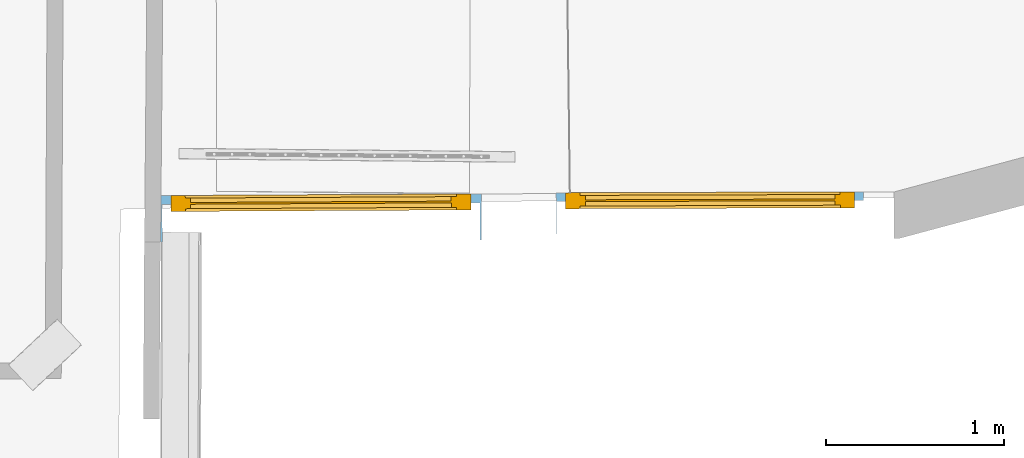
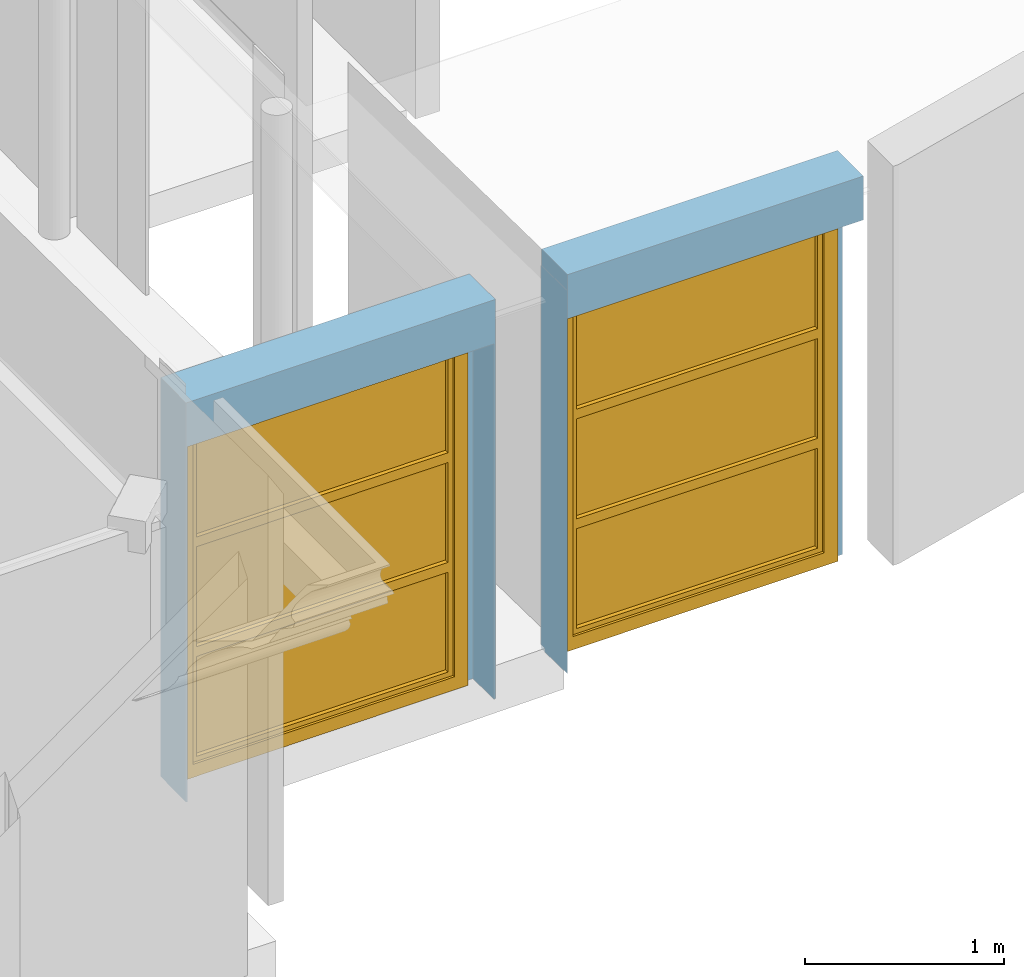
# One storey, part 53 of 72: 2 windows, 2 openings, plus 2 elements that do not belong to this part.
"""IFC2X3 building model written with IfcOpenShell, lengths in centimetres."""

from ifc_helpers import new_model, entity, si_unit, converted_unit, direction, frame, origin, origin_with_axes, place, context, subcontext, project, spatial, polyline, outline, extrude, clip, bounded_halfspace, faceted_brep, shape, source, transform, mapped, material, material_list, layer, layer_set, layer_usage, type_object, element, fill, save


model = new_model("IFC2X3")

# Units and contexts
model_context = context("Model", 3, precision=0.0001, world=origin(), true_north=direction((0.225632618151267, 0.974212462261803, 0.0)))
body_context = subcontext(model_context, "Body", "Model", "MODEL_VIEW")
footprint_context = subcontext(model_context, "FootPrint", "Model", "MODEL_VIEW")
profile_context = subcontext(model_context, "Profile", "Model", "MODEL_VIEW")
ifc_project = project(units=[si_unit("LENGTHUNIT", "METRE", prefix="CENTI"), si_unit("AREAUNIT", "SQUARE_METRE", prefix="CENTI"), si_unit("VOLUMEUNIT", "CUBIC_METRE", prefix="CENTI"), converted_unit("PLANEANGLEUNIT", "DEGREE", entity("IfcRatioMeasure", 0.0174532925), si_unit("PLANEANGLEUNIT", "RADIAN"), dimensions=[0, 0, 0, 0, 0, 0, 0])], contexts=[model_context])

# Site, building, storey
site_placement = place(None, origin_with_axes())
site = spatial("IfcSite", under=ifc_project, at=site_placement, Name="Default Site", CompositionType="ELEMENT")
building_placement = place(site_placement, origin_with_axes())
building = spatial("IfcBuilding", under=site, at=building_placement, Name="Default Building", CompositionType="ELEMENT")
storey_placement = place(building_placement, frame((0.0, 0.0, 853.910374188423), z_axis=(0.0, 0.0, 1.0), x_axis=(1.0, 0.0, 0.0)))
storey = spatial("IfcBuildingStorey", under=building, at=storey_placement, Name="Niveau 2", CompositionType="ELEMENT", Elevation=853.910374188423)

# Wall, opening, window
ifc_material_1 = material(Name="<aucun>")
ifc_layer = layer(ifc_material_1, 26.0)
ifc_layer_set = layer_set([ifc_layer], Name="default")
ifc_layer_usage_1 = layer_usage(ifc_layer_set, "AXIS2", "POSITIVE", -13.0)
wall_type = type_object("IfcWallType", Name="default 260", PredefinedType="NOTDEFINED", material=ifc_layer_set)
wall_1_placement = place(storey_placement, frame((894.35081845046, -887.212370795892, 7.46069872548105e-12), z_axis=(0.0, 0.0, 1.0), x_axis=(0.999986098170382, 0.00527289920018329, 0.0)))
wall_1 = element("IfcWallStandardCase", 1, at=wall_1_placement, inside=storey, type_object=wall_type, material=ifc_layer_usage_1, Name="Enveloppe 539435", context=body_context, shape_type="SweptSolid", body=[
    extrude(outline(polyline([(-0.000936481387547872, -13.0000000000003), (180.225040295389, -12.9999999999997), (180.225040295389, 13.0000000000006), (0.369743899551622, 13.0000000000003), (-0.000936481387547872, -13.0000000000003)])), frame((0.0, 0.0, -7.105427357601e-12), z_axis=(0.0, 0.0, 1.0), x_axis=(1.0, 0.0, 0.0)), (0.0, 0.0, 1.0), 244.999999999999),
])
opening_1_placement = place(wall_1_placement, frame((0.982365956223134, 0.0, 3.5349501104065e-13), z_axis=(0.0, 0.0, 1.0), x_axis=(-1.0, -2.10335221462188e-15, 0.0)))
cartesian_point_1 = entity("IfcCartesianPoint", [0.0, 0.0, 218.0])
cartesian_point_2 = entity("IfcCartesianPoint", [-178.282845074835, -13.0000000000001])
opening_1 = element("IfcOpeningElement", 2, at=opening_1_placement, cuts=wall_1, Name="4294966494_11", ObjectType="Opening", shapes=[
    shape(body_context, "Body", "Brep", [faceted_brep([(-4.99997728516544, -32.9999955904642, 218.000007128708), (-173.282822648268, -32.9999955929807, 218.000007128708), (-173.282822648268, -32.9999955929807, -2.33888702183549e-05), (-4.99997728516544, -32.9999955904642, -2.33888702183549e-05), (3.15236590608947e-05, 33.0000052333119, -2.33888702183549e-05), (-178.282800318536, 33.0000052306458, -2.33888702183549e-05), (-178.282800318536, 33.0000052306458, 218.000007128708), (3.15236590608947e-05, 33.0000052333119, 218.000007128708), (-4.99997728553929, -8.00002964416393, -2.33888702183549e-05), (-4.99997728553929, -8.00002964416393, 218.000007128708), (-4.99995277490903, -8.00002964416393, 218.000007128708), (-4.99995277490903, -8.00002964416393, -2.33888702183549e-05), (4.0716068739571e-05, -8.00002964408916, -2.33888702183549e-05), (4.0716068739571e-05, -8.00002964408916, 218.000007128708), (4.07160687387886e-05, -7.99997732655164, 218.000007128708), (4.07160687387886e-05, -7.99997732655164, -2.33888702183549e-05), (4.07154556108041e-05, 33.0000052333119, -2.33888702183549e-05), (4.07154556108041e-05, 33.0000052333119, 218.000007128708), (-173.282822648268, -32.9999556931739, -2.33888702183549e-05), (-173.282798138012, -7.99998974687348, -2.33888702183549e-05), (-178.282886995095, -8.00004156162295, -2.33888702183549e-05), (-178.282800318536, 33.0000358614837, -2.33888702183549e-05), (-173.282822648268, -32.9999556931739, 218.000007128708), (-173.282822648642, -7.99998974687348, 218.000007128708), (-173.282822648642, -7.99998974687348, -2.33888702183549e-05), (-173.282798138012, -7.99998974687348, 218.000007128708), (-178.282886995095, -7.99998974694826, 218.000007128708), (-178.282886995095, -7.99998974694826, -2.33888702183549e-05), (-178.282886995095, -8.00004156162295, 218.000007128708), (-178.282886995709, 33.0000358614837, 218.000007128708), (-178.282886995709, 33.0000358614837, -2.33888702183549e-05), (-178.282800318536, 33.0000358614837, 218.000007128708)], [[[0, 1, 2, 3]], [[4, 5, 6, 7]], [[0, 3, 8, 9]], [[10, 11, 12, 13]], [[14, 15, 16, 17]], [[3, 18, 19, 20, 21, 4, 15, 11]], [[18, 22, 23, 24]], [[19, 25, 26, 27]], [[20, 28, 29, 30]], [[10, 14, 7, 31, 28, 25, 22, 0]]])]),
    shape(profile_context, "Profile", "GeometricCurveSet", [entity("IfcGeometricCurveSet", [entity("IfcPolyline", [cartesian_point_1, entity("IfcCartesianPoint", [0.0, 0.0, 0.0]), entity("IfcCartesianPoint", [-178.282845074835, -1.77635683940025e-13, 0.0]), entity("IfcCartesianPoint", [-178.282845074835, -1.77635683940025e-13, 218.0]), cartesian_point_1])])]),
    shape(footprint_context, "FootPrint", "GeometricCurveSet", [entity("IfcGeometricCurveSet", [entity("IfcPolyline", [cartesian_point_2, entity("IfcCartesianPoint", [-1.77635683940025e-13, -13.0000000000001]), entity("IfcCartesianPoint", [0.0, 13.0000000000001]), entity("IfcCartesianPoint", [-178.282845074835, 12.9999999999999]), cartesian_point_2])])]),
])
ifc_material_2 = material(Name="Transparent")
ifc_material_3 = material(Name="Blanc trafic")
ifc_material_list = material_list([ifc_material_2, ifc_material_3])
window_style = type_object("IfcWindowStyle", Name="Fn 1 montant fixe 2 vitres ép 90", ConstructionType="NOTDEFINED", OperationType="TRIPLE_PANEL_HORIZONTAL", ParameterTakesPrecedence=True, Sizeable=False, material=ifc_material_list)
shared_shape_1 = source(origin_with_axes(), body_context, "Body", "Brep", [
    faceted_brep([(-76.1414229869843, 209.999990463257, -4.50000017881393), (-76.1414229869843, 209.999990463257, 4.50000017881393), (-76.1414229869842, 7.99999982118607, 4.50000017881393), (-76.1414229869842, 7.99999982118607, -4.50000017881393), (-84.1414213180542, 218.00000667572, 4.50000017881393), (-84.1414213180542, 0.0, 4.50000017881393), (-76.1414229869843, 7.99999982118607, 4.50000017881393), (-84.1414213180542, 218.00000667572, -4.50000017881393), (-84.1414213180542, 0.0, -4.50000017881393), (-76.1414229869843, 7.99999982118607, -4.50000017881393), (76.1414229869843, 7.99999982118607, 4.50000017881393), (76.1414229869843, 7.99999982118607, -4.50000017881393), (84.1414213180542, 0.0, 4.50000017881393), (84.1414213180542, 0.0, -4.50000017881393), (76.1414229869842, 209.999990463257, 4.50000017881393), (76.1414229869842, 209.999990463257, -4.50000017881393), (84.1414213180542, 218.00000667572, 4.50000017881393), (76.1414229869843, 209.999990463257, 4.50000017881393), (84.1414213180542, 218.00000667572, -4.50000017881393), (76.1414229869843, 209.999990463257, -4.50000017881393)], [[[0, 1, 2, 3]], [[1, 4, 5, 6]], [[4, 7, 8, 5]], [[7, 0, 9, 8]], [[9, 6, 10, 11]], [[6, 5, 12, 10]], [[5, 8, 13, 12]], [[8, 9, 11, 13]], [[11, 10, 14, 15]], [[10, 12, 16, 17]], [[12, 13, 18, 16]], [[13, 11, 19, 18]], [[19, 17, 1, 0]], [[17, 16, 4, 1]], [[16, 18, 7, 4]], [[18, 19, 0, 7]]]),
    faceted_brep([(-73.1414198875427, 206.99999332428, -2.99999993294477), (-73.1414198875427, 206.99999332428, 2.99999993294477), (-73.1414198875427, 145.666670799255, 2.99999993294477), (-73.1414198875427, 145.666670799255, -2.99999993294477), (-76.1414229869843, 209.999990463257, 2.99999993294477), (-76.1414229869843, 142.666661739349, 2.99999993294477), (-76.1414229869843, 209.999990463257, -2.99999993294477), (-76.1414229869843, 142.666661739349, -2.99999993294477), (73.1414198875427, 145.666670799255, 2.99999993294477), (73.1414198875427, 145.666670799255, -2.99999993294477), (76.1414229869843, 142.666661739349, 2.99999993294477), (76.1414229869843, 142.666661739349, -2.99999993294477), (73.1414198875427, 206.99999332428, 2.99999993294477), (73.1414198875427, 206.99999332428, -2.99999993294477), (76.1414229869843, 209.999990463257, 2.99999993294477), (76.1414229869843, 209.999990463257, -2.99999993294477)], [[[0, 1, 2, 3]], [[1, 4, 5, 2]], [[4, 6, 7, 5]], [[6, 0, 3, 7]], [[3, 2, 8, 9]], [[2, 5, 10, 8]], [[5, 7, 11, 10]], [[7, 3, 9, 11]], [[9, 8, 12, 13]], [[8, 10, 14, 12]], [[10, 11, 15, 14]], [[11, 9, 13, 15]], [[13, 12, 1, 0]], [[12, 14, 4, 1]], [[14, 15, 6, 4]], [[15, 13, 0, 6]]]),
    faceted_brep([(73.1414198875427, 206.99999332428, -0.499999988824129), (73.1414198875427, 145.666670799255, -0.499999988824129), (-73.1414198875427, 145.666670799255, -0.499999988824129), (-73.1414198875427, 206.99999332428, -0.499999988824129), (-73.1414198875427, 206.99999332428, 0.499999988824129), (-73.1414198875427, 145.666670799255, 0.499999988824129), (73.1414198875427, 145.666670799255, 0.499999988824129), (73.1414198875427, 206.99999332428, 0.499999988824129)], [[[0, 1, 2, 3]], [[4, 5, 6, 7]], [[3, 2, 5, 4]], [[2, 1, 6, 5]], [[1, 0, 7, 6]], [[0, 3, 4, 7]]]),
    faceted_brep([(-73.1414198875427, 139.666664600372, -2.99999993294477), (-73.1414198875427, 139.666664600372, 2.99999993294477), (-73.1414198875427, 78.3333361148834, 2.99999993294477), (-73.1414198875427, 78.3333361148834, -2.99999993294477), (-76.1414229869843, 142.666661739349, 2.99999993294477), (-76.1414229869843, 75.3333330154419, 2.99999993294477), (-76.1414229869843, 142.666661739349, -2.99999993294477), (-76.1414229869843, 75.3333330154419, -2.99999993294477), (73.1414198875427, 78.3333361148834, 2.99999993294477), (73.1414198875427, 78.3333361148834, -2.99999993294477), (76.1414229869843, 75.3333330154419, 2.99999993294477), (76.1414229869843, 75.3333330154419, -2.99999993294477), (73.1414198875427, 139.666664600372, 2.99999993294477), (73.1414198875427, 139.666664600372, -2.99999993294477), (76.1414229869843, 142.666661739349, 2.99999993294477), (76.1414229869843, 142.666661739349, -2.99999993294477)], [[[0, 1, 2, 3]], [[1, 4, 5, 2]], [[4, 6, 7, 5]], [[6, 0, 3, 7]], [[3, 2, 8, 9]], [[2, 5, 10, 8]], [[5, 7, 11, 10]], [[7, 3, 9, 11]], [[9, 8, 12, 13]], [[8, 10, 14, 12]], [[10, 11, 15, 14]], [[11, 9, 13, 15]], [[13, 12, 1, 0]], [[12, 14, 4, 1]], [[14, 15, 6, 4]], [[15, 13, 0, 6]]]),
    faceted_brep([(73.1414198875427, 139.666664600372, -0.499999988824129), (73.1414198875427, 78.3333361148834, -0.499999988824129), (-73.1414198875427, 78.3333361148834, -0.499999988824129), (-73.1414198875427, 139.666664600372, -0.499999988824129), (-73.1414198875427, 139.666664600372, 0.499999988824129), (-73.1414198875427, 78.3333361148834, 0.499999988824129), (73.1414198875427, 78.3333361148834, 0.499999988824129), (73.1414198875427, 139.666664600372, 0.499999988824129)], [[[0, 1, 2, 3]], [[4, 5, 6, 7]], [[3, 2, 5, 4]], [[2, 1, 6, 5]], [[1, 0, 7, 6]], [[0, 3, 4, 7]]]),
    faceted_brep([(-73.1414198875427, 72.3333358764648, -2.99999993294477), (-73.1414198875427, 72.3333358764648, 2.99999993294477), (-73.1414198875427, 10.9999999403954, 2.99999993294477), (-73.1414198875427, 10.9999999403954, -2.99999993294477), (-76.1414229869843, 75.3333330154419, 2.99999993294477), (-76.1414229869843, 7.99999982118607, 2.99999993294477), (-76.1414229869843, 75.3333330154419, -2.99999993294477), (-76.1414229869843, 7.99999982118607, -2.99999993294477), (73.1414198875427, 10.9999999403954, 2.99999993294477), (73.1414198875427, 10.9999999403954, -2.99999993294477), (76.1414229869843, 7.99999982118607, 2.99999993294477), (76.1414229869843, 7.99999982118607, -2.99999993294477), (73.1414198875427, 72.3333358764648, 2.99999993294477), (73.1414198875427, 72.3333358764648, -2.99999993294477), (76.1414229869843, 75.3333330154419, 2.99999993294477), (76.1414229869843, 75.3333330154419, -2.99999993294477)], [[[0, 1, 2, 3]], [[1, 4, 5, 2]], [[4, 6, 7, 5]], [[6, 0, 3, 7]], [[3, 2, 8, 9]], [[2, 5, 10, 8]], [[5, 7, 11, 10]], [[7, 3, 9, 11]], [[9, 8, 12, 13]], [[8, 10, 14, 12]], [[10, 11, 15, 14]], [[11, 9, 13, 15]], [[13, 12, 1, 0]], [[12, 14, 4, 1]], [[14, 15, 6, 4]], [[15, 13, 0, 6]]]),
    faceted_brep([(73.1414198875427, 72.3333358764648, -0.499999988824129), (73.1414198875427, 10.9999999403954, -0.499999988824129), (-73.1414198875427, 10.9999999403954, -0.499999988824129), (-73.1414198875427, 72.3333358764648, -0.499999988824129), (-73.1414198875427, 72.3333358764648, 0.499999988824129), (-73.1414198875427, 10.9999999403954, 0.499999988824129), (73.1414198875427, 10.9999999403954, 0.499999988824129), (73.1414198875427, 72.3333358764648, 0.499999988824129)], [[[0, 1, 2, 3]], [[4, 5, 6, 7]], [[3, 2, 5, 4]], [[2, 1, 6, 5]], [[1, 0, 7, 6]], [[0, 3, 4, 7]]]),
])
window_1_placement = place(opening_1_placement, frame((-173.282845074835, -12.9999999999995, 0.0), z_axis=(0.0, 0.0, 1.0), x_axis=(1.0, 0.0, 0.0)))
window_1 = element("IfcWindow", 3, at=window_1_placement, inside=storey, type_object=window_style, material=ifc_material_list, Name="Fenêtre 551111", OverallHeight=218.0, OverallWidth=168.282845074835, context=body_context, shape_type="MappedRepresentation", body=[
    mapped(shared_shape_1, transform((84.1414225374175, 4.49999999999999, 0.0), x_axis=(-1.0, -8.67361737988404e-19, 0.0), y_axis=(0.0, 0.0, 1.0), z_axis=(-8.67361737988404e-19, 1.0, 0.0), scale=1.0, scale2=1.0, scale3=1.0, uniform=False)),
])
fill(opening_1, window_1)

ifc_layer_usage_2 = layer_usage(ifc_layer_set, "AXIS2", "POSITIVE", -13.0)
wall_2_placement = place(storey_placement, frame((1116.8410202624, -885.676642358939, 7.46069872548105e-12), z_axis=(0.0, 0.0, 1.0), x_axis=(0.999994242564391, 0.0033933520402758, 0.0)))
wall_2 = element("IfcWallStandardCase", 4, at=wall_2_placement, inside=storey, type_object=wall_type, material=ifc_layer_usage_2, Name="Enveloppe 537518", context=body_context, shape_type="Clipping", body=[
    clip(extrude(outline(polyline([(-0.336796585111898, 13.0054665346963), (-0.0651161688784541, -12.9997790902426), (172.02307407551, -13.000252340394), (172.02307407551, 13.0000000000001), (-0.336796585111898, 13.0054665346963)])), frame((0.0, 0.0, -7.28306304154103e-12), z_axis=(0.0, 0.0, 1.0), x_axis=(1.0, 0.0, 0.0)), (0.0, 0.0, 1.0), 244.999999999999), bounded_halfspace(frame((-0.0651206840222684, -13.0011096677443, 234.999999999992), z_axis=(0.0, 0.0, -1.0), x_axis=(0.99985477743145, 0.0170418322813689, 0.0)), True, frame((-0.0651206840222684, -13.0011096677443, 234.999999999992), z_axis=(0.0, 0.0, 1.0), x_axis=(1.0, 0.0, 0.0)), polyline([(-0.27167590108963, 26.0065762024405), (0.0, 0.0), (0.0651048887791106, 0.00110966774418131), (0.0651206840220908, 26.0063395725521), (-0.27167590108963, 26.0065762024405)]))),
])
opening_2_placement = place(wall_2_placement, frame((-0.00786989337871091, 1.13686837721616e-13, -1.79412040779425e-13), z_axis=(0.0, 0.0, 1.0), x_axis=(-1.0, 1.36522737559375e-15, 0.0)))
cartesian_point_3 = entity("IfcCartesianPoint", [0.0, 0.0, 218.0])
cartesian_point_4 = entity("IfcCartesianPoint", [-172.091475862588, -12.9999999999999])
opening_2 = element("IfcOpeningElement", 5, at=opening_2_placement, cuts=wall_2, Name="4294966489_11", ObjectType="Opening", shapes=[
    shape(body_context, "Body", "Brep", [faceted_brep([(-5.00003132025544, -32.9999991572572, 218.000007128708), (-167.091456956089, -32.9999991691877, 218.000007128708), (-167.091456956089, -32.9999991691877, -2.33888698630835e-05), (-5.00003132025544, -32.9999991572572, -2.33888698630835e-05), (-0.00786043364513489, 33.0000193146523, -2.33888698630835e-05), (-172.091466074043, 33.0000193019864, -2.33888698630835e-05), (-172.091466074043, 33.0000193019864, 218.000007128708), (-0.00786043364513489, 33.0000193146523, 218.000007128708), (-5.00003132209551, -8.00004613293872, -2.33888698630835e-05), (-5.00003132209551, -8.00004613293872, 218.000007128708), (-4.99997932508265, -8.00004613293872, 218.000007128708), (-4.99997932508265, -8.00004613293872, -2.33888698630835e-05), (-2.68022489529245e-05, -8.00004613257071, -2.33888698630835e-05), (-2.68022489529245e-05, -8.00004613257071, 218.000007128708), (-2.68022489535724e-05, -8.00003732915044, 218.000007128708), (-2.68022489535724e-05, -8.00003732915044, -2.33888698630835e-05), (-2.68052666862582e-05, 32.9999927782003, -2.33888698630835e-05), (-2.68052666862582e-05, 32.9999927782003, 218.000007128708), (-167.091456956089, -33.0000452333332, -2.33888698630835e-05), (-167.091500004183, -7.99999651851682, -2.33888698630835e-05), (-172.091452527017, -8.00000532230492, -2.33888698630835e-05), (-172.091466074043, 33.0000247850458, -2.33888698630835e-05), (-4.03492744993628e-05, 32.9999927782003, -2.33888698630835e-05), (-167.091456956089, -33.0000452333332, 218.000007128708), (-167.091456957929, -7.99999651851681, 218.000007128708), (-167.091456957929, -7.99999651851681, -2.33888698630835e-05), (-167.091500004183, -7.99999651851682, 218.000007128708), (-172.091452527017, -7.99999651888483, 218.000007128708), (-172.091452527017, -7.99999651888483, -2.33888698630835e-05), (-172.091452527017, -8.00000532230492, 218.000007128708), (-172.091452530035, 33.0000247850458, 218.000007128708), (-172.091452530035, 33.0000247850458, -2.33888698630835e-05), (-4.03492744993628e-05, 32.9999927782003, 218.000007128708), (-172.091466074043, 33.0000247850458, 218.000007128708)], [[[0, 1, 2, 3]], [[4, 5, 6, 7]], [[0, 3, 8, 9]], [[10, 11, 12, 13]], [[14, 15, 16, 17]], [[3, 18, 19, 20, 21, 22, 15, 11]], [[18, 23, 24, 25]], [[19, 26, 27, 28]], [[20, 29, 30, 31]], [[10, 14, 32, 33, 29, 26, 23, 0]]])]),
    shape(profile_context, "Profile", "GeometricCurveSet", [entity("IfcGeometricCurveSet", [entity("IfcPolyline", [cartesian_point_3, entity("IfcCartesianPoint", [0.0, 0.0, -1.77635683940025e-13]), entity("IfcCartesianPoint", [-172.091475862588, 1.77635683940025e-13, -1.77635683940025e-13]), entity("IfcCartesianPoint", [-172.091475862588, 1.77635683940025e-13, 218.0]), cartesian_point_3])])]),
    shape(footprint_context, "FootPrint", "GeometricCurveSet", [entity("IfcGeometricCurveSet", [entity("IfcPolyline", [cartesian_point_4, entity("IfcCartesianPoint", [0.0, -13.0000000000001]), entity("IfcCartesianPoint", [-1.77635683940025e-13, 13.0000000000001]), entity("IfcCartesianPoint", [-172.091475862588, 13.0000000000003]), cartesian_point_4])])]),
])
shared_shape_2 = source(origin_with_axes(), body_context, "Body", "Brep", [
    faceted_brep([(-73.0457365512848, 209.999990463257, -4.50000017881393), (-73.0457365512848, 209.999990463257, 4.50000017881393), (-73.0457365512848, 7.99999982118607, 4.50000017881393), (-73.0457365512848, 7.99999982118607, -4.50000017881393), (-81.0457408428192, 218.00000667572, 4.50000017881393), (-81.0457408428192, 1.77635683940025e-13, 4.50000017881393), (-81.0457408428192, 218.00000667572, -4.50000017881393), (-81.0457408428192, 1.77635683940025e-13, -4.50000017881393), (73.0457365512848, 7.99999982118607, 4.50000017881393), (73.0457365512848, 7.99999982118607, -4.50000017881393), (81.0457408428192, 1.77635683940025e-13, 4.50000017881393), (81.0457408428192, 1.77635683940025e-13, -4.50000017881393), (73.0457365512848, 209.999990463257, 4.50000017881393), (73.0457365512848, 209.999990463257, -4.50000017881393), (81.0457408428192, 218.00000667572, 4.50000017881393), (81.0457408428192, 218.00000667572, -4.50000017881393)], [[[0, 1, 2, 3]], [[1, 4, 5, 2]], [[4, 6, 7, 5]], [[6, 0, 3, 7]], [[3, 2, 8, 9]], [[2, 5, 10, 8]], [[5, 7, 11, 10]], [[7, 3, 9, 11]], [[9, 8, 12, 13]], [[8, 10, 14, 12]], [[10, 11, 15, 14]], [[11, 9, 13, 15]], [[13, 12, 1, 0]], [[12, 14, 4, 1]], [[14, 15, 6, 4]], [[15, 13, 0, 6]]]),
    faceted_brep([(-70.0457394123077, 206.99999332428, -2.99999993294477), (-70.0457394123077, 206.99999332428, 2.99999993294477), (-70.0457394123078, 145.666670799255, 2.99999993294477), (-70.0457394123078, 145.666670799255, -2.99999993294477), (-73.0457365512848, 209.999990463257, 2.99999993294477), (-73.0457365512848, 142.666661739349, 2.99999993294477), (-70.0457394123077, 145.666670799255, 2.99999993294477), (-73.0457365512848, 209.999990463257, -2.99999993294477), (-73.0457365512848, 142.666661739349, -2.99999993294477), (-70.0457394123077, 145.666670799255, -2.99999993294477), (70.0457394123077, 145.666670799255, 2.99999993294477), (70.0457394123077, 145.666670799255, -2.99999993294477), (73.0457365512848, 142.666661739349, 2.99999993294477), (73.0457365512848, 142.666661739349, -2.99999993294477), (70.0457394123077, 206.99999332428, 2.99999993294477), (70.0457394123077, 206.99999332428, -2.99999993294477), (73.0457365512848, 209.999990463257, 2.99999993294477), (73.0457365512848, 209.999990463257, -2.99999993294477)], [[[0, 1, 2, 3]], [[1, 4, 5, 6]], [[4, 7, 8, 5]], [[7, 0, 9, 8]], [[9, 6, 10, 11]], [[6, 5, 12, 10]], [[5, 8, 13, 12]], [[8, 9, 11, 13]], [[11, 10, 14, 15]], [[10, 12, 16, 14]], [[12, 13, 17, 16]], [[13, 11, 15, 17]], [[15, 14, 1, 0]], [[14, 16, 4, 1]], [[16, 17, 7, 4]], [[17, 15, 0, 7]]]),
    faceted_brep([(70.0457394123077, 206.99999332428, -0.499999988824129), (70.0457394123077, 145.666670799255, -0.499999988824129), (-70.0457394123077, 145.666670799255, -0.499999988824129), (-70.0457394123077, 206.99999332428, -0.499999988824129), (-70.0457394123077, 206.99999332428, 0.499999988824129), (-70.0457394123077, 145.666670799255, 0.499999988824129), (70.0457394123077, 145.666670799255, 0.499999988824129), (70.0457394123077, 206.99999332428, 0.499999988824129), (-70.0457394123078, 145.666670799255, -0.499999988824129), (-70.0457394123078, 145.666670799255, 0.499999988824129)], [[[0, 1, 2, 3]], [[4, 5, 6, 7]], [[3, 8, 9, 4]], [[2, 1, 6, 5]], [[1, 0, 7, 6]], [[0, 3, 4, 7]]]),
    faceted_brep([(-70.0457394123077, 139.666664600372, -2.99999993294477), (-70.0457394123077, 139.666664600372, 2.99999993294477), (-70.0457394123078, 78.3333361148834, 2.99999993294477), (-70.0457394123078, 78.3333361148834, -2.99999993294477), (-73.0457365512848, 142.666661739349, 2.99999993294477), (-73.0457365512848, 75.3333330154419, 2.99999993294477), (-70.0457394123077, 78.3333361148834, 2.99999993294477), (-73.0457365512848, 142.666661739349, -2.99999993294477), (-73.0457365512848, 75.3333330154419, -2.99999993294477), (-70.0457394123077, 78.3333361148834, -2.99999993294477), (70.0457394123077, 78.3333361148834, 2.99999993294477), (70.0457394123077, 78.3333361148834, -2.99999993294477), (73.0457365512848, 75.3333330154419, 2.99999993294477), (73.0457365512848, 75.3333330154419, -2.99999993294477), (70.0457394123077, 139.666664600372, 2.99999993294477), (70.0457394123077, 139.666664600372, -2.99999993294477), (73.0457365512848, 142.666661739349, 2.99999993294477), (73.0457365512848, 142.666661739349, -2.99999993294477)], [[[0, 1, 2, 3]], [[1, 4, 5, 6]], [[4, 7, 8, 5]], [[7, 0, 9, 8]], [[9, 6, 10, 11]], [[6, 5, 12, 10]], [[5, 8, 13, 12]], [[8, 9, 11, 13]], [[11, 10, 14, 15]], [[10, 12, 16, 14]], [[12, 13, 17, 16]], [[13, 11, 15, 17]], [[15, 14, 1, 0]], [[14, 16, 4, 1]], [[16, 17, 7, 4]], [[17, 15, 0, 7]]]),
    faceted_brep([(70.0457394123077, 139.666664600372, -0.499999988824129), (70.0457394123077, 78.3333361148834, -0.499999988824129), (-70.0457394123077, 78.3333361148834, -0.499999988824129), (-70.0457394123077, 139.666664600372, -0.499999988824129), (-70.0457394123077, 139.666664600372, 0.499999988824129), (-70.0457394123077, 78.3333361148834, 0.499999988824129), (70.0457394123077, 78.3333361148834, 0.499999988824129), (70.0457394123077, 139.666664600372, 0.499999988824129), (-70.0457394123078, 78.3333361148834, -0.499999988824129), (-70.0457394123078, 78.3333361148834, 0.499999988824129)], [[[0, 1, 2, 3]], [[4, 5, 6, 7]], [[3, 8, 9, 4]], [[2, 1, 6, 5]], [[1, 0, 7, 6]], [[0, 3, 4, 7]]]),
    faceted_brep([(-70.0457394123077, 72.3333358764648, -2.99999993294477), (-70.0457394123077, 72.3333358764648, 2.99999993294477), (-70.0457394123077, 10.9999999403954, 2.99999993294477), (-70.0457394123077, 10.9999999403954, -2.99999993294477), (-73.0457365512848, 75.3333330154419, 2.99999993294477), (-73.0457365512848, 7.99999982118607, 2.99999993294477), (-73.0457365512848, 75.3333330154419, -2.99999993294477), (-73.0457365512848, 7.99999982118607, -2.99999993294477), (70.0457394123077, 10.9999999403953, 2.99999993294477), (70.0457394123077, 10.9999999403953, -2.99999993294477), (73.0457365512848, 7.99999982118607, 2.99999993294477), (70.0457394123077, 10.9999999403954, 2.99999993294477), (73.0457365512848, 7.99999982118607, -2.99999993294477), (70.0457394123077, 10.9999999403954, -2.99999993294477), (70.0457394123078, 72.3333358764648, 2.99999993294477), (70.0457394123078, 72.3333358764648, -2.99999993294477), (73.0457365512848, 75.3333330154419, 2.99999993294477), (70.0457394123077, 72.3333358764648, 2.99999993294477), (73.0457365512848, 75.3333330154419, -2.99999993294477), (70.0457394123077, 72.3333358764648, -2.99999993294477), (-70.0457394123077, 72.3333358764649, 2.99999993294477), (-70.0457394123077, 72.3333358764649, -2.99999993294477)], [[[0, 1, 2, 3]], [[1, 4, 5, 2]], [[4, 6, 7, 5]], [[6, 0, 3, 7]], [[3, 2, 8, 9]], [[2, 5, 10, 11]], [[5, 7, 12, 10]], [[7, 3, 13, 12]], [[13, 11, 14, 15]], [[11, 10, 16, 17]], [[10, 12, 18, 16]], [[12, 13, 19, 18]], [[19, 17, 20, 21]], [[17, 16, 4, 1]], [[16, 18, 6, 4]], [[18, 19, 0, 6]]]),
    faceted_brep([(70.0457394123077, 72.3333358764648, -0.499999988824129), (70.0457394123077, 10.9999999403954, -0.499999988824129), (-70.0457394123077, 10.9999999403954, -0.499999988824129), (-70.0457394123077, 72.3333358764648, -0.499999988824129), (-70.0457394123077, 72.3333358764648, 0.499999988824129), (-70.0457394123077, 10.9999999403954, 0.499999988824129), (70.0457394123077, 10.9999999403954, 0.499999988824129), (70.0457394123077, 72.3333358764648, 0.499999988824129), (70.0457394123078, 72.3333358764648, -0.499999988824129), (70.0457394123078, 72.3333358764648, 0.499999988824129)], [[[0, 1, 2, 3]], [[4, 5, 6, 7]], [[3, 2, 5, 4]], [[2, 1, 6, 5]], [[1, 8, 9, 6]], [[0, 3, 4, 7]]]),
])
window_2_placement = place(opening_2_placement, frame((-167.091475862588, -13.0000000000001, -1.77635683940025e-15), z_axis=(0.0, 0.0, 1.0), x_axis=(1.0, 0.0, 0.0)))
window_2 = element("IfcWindow", 6, at=window_2_placement, inside=storey, type_object=window_style, material=ifc_material_list, Name="Fenêtre 551110", OverallHeight=218.0, OverallWidth=162.091475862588, context=body_context, shape_type="MappedRepresentation", body=[
    mapped(shared_shape_2, transform((81.045737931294, 4.50000000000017, 1.77635683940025e-13), x_axis=(-1.0, 4.33680868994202e-19, 0.0), y_axis=(0.0, 0.0, 1.0), z_axis=(4.33680868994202e-19, 1.0, 0.0), scale=1.0, scale2=1.0, scale3=1.0, uniform=False)),
])
fill(opening_2, window_2)

save(model, "model.ifc")
